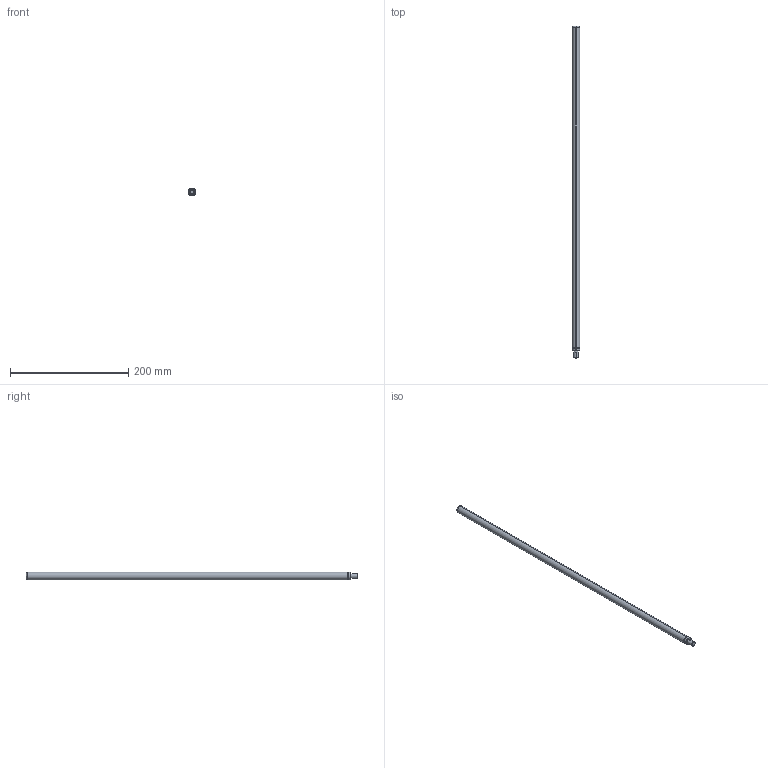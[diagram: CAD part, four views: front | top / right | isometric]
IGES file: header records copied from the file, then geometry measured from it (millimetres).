
Start section: SolidWorks IGES file using analytic representation for surfaces
Bounding box: 13 x 562 x 13 mm (x, y, z)
Surface area: 22969.8 mm2 (no closed solid volume)
Topology: 0 solids, 0 shells, 17 faces, 184 edges, 184 vertices
Faces by surface type: bspline 9, revolution 8
